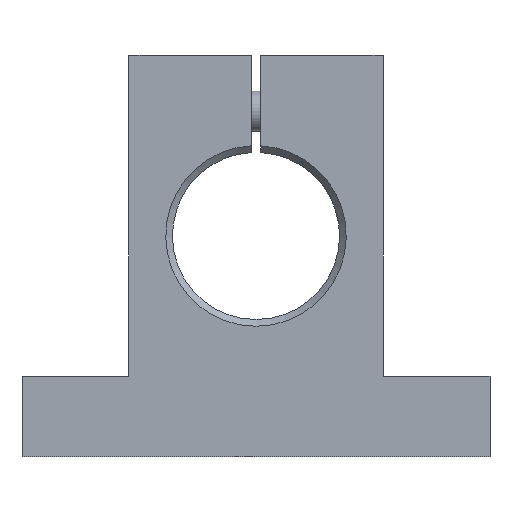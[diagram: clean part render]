
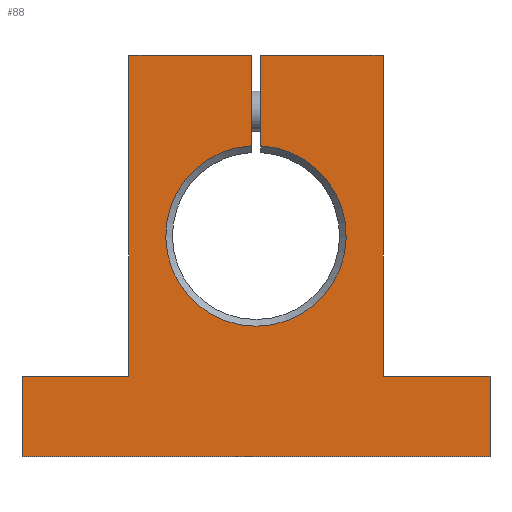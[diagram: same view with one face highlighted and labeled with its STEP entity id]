
A CAD part, front view. The second image highlights one B-rep face of the part: STEP entity #88.
In plain terms, the highlighted planar face has unit normal (0, -1, 0).
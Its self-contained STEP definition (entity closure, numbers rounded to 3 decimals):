
#88 = ADVANCED_FACE( '', ( #203 ), #204, .T. );
#203 = FACE_OUTER_BOUND( '', #347, .T. );
#204 = PLANE( '', #348 );
#347 = EDGE_LOOP( '', ( #537, #538, #539, #540, #541, #542, #543, #544, #545, #546, #547, #548 ) );
#348 = AXIS2_PLACEMENT_3D( '', #549, #550, #551 );
#537 = ORIENTED_EDGE( '', *, *, #800, .F. );
#538 = ORIENTED_EDGE( '', *, *, #801, .T. );
#539 = ORIENTED_EDGE( '', *, *, #802, .F. );
#540 = ORIENTED_EDGE( '', *, *, #803, .F. );
#541 = ORIENTED_EDGE( '', *, *, #804, .F. );
#542 = ORIENTED_EDGE( '', *, *, #805, .F. );
#543 = ORIENTED_EDGE( '', *, *, #806, .F. );
#544 = ORIENTED_EDGE( '', *, *, #763, .F. );
#545 = ORIENTED_EDGE( '', *, *, #807, .F. );
#546 = ORIENTED_EDGE( '', *, *, #756, .F. );
#547 = ORIENTED_EDGE( '', *, *, #808, .F. );
#548 = ORIENTED_EDGE( '', *, *, #809, .F. );
#549 = CARTESIAN_POINT( '', ( 0., -12., 2. ) );
#550 = DIRECTION( '', ( 0., -1., 0. ) );
#551 = DIRECTION( '', ( 1., 0., 0. ) );
#756 = EDGE_CURVE( '', #880, #881, #882, .T. );
#763 = EDGE_CURVE( '', #893, #894, #895, .T. );
#800 = EDGE_CURVE( '', #952, #953, #954, .T. );
#801 = EDGE_CURVE( '', #952, #955, #956, .F. );
#802 = EDGE_CURVE( '', #957, #955, #958, .T. );
#803 = EDGE_CURVE( '', #959, #957, #960, .T. );
#804 = EDGE_CURVE( '', #961, #959, #962, .T. );
#805 = EDGE_CURVE( '', #963, #961, #964, .T. );
#806 = EDGE_CURVE( '', #894, #963, #965, .T. );
#807 = EDGE_CURVE( '', #881, #893, #966, .T. );
#808 = EDGE_CURVE( '', #967, #880, #968, .T. );
#809 = EDGE_CURVE( '', #953, #967, #969, .T. );
#880 = VERTEX_POINT( '', #1062 );
#881 = VERTEX_POINT( '', #1063 );
#882 = LINE( '', #1064, #1065 );
#893 = VERTEX_POINT( '', #1079 );
#894 = VERTEX_POINT( '', #1080 );
#895 = LINE( '', #1081, #1082 );
#952 = VERTEX_POINT( '', #1156 );
#953 = VERTEX_POINT( '', #1157 );
#954 = LINE( '', #1158, #1159 );
#955 = VERTEX_POINT( '', #1160 );
#956 = CIRCLE( '', #1161, 13.5 );
#957 = VERTEX_POINT( '', #1162 );
#958 = LINE( '', #1163, #1164 );
#959 = VERTEX_POINT( '', #1165 );
#960 = LINE( '', #1166, #1167 );
#961 = VERTEX_POINT( '', #1168 );
#962 = LINE( '', #1169, #1170 );
#963 = VERTEX_POINT( '', #1171 );
#964 = LINE( '', #1172, #1173 );
#965 = LINE( '', #1174, #1175 );
#966 = LINE( '', #1176, #1177 );
#967 = VERTEX_POINT( '', #1178 );
#968 = LINE( '', #1179, #1180 );
#969 = LINE( '', #1181, #1182 );
#1062 = CARTESIAN_POINT( '', ( 19., -12., -21. ) );
#1063 = CARTESIAN_POINT( '', ( 35., -12., -21. ) );
#1064 = CARTESIAN_POINT( '', ( 35., -12., -21. ) );
#1065 = VECTOR( '', #1288, 1000. );
#1079 = CARTESIAN_POINT( '', ( 35., -12., -33. ) );
#1080 = CARTESIAN_POINT( '', ( -35., -12., -33. ) );
#1081 = CARTESIAN_POINT( '', ( -35., -12., -33. ) );
#1082 = VECTOR( '', #1298, 1000. );
#1156 = CARTESIAN_POINT( '', ( 0.7, -12., 13.482 ) );
#1157 = CARTESIAN_POINT( '', ( 0.7, -12., 27. ) );
#1158 = CARTESIAN_POINT( '', ( 0.7, -12., 27. ) );
#1159 = VECTOR( '', #1340, 1000. );
#1160 = CARTESIAN_POINT( '', ( -0.7, -12., 13.482 ) );
#1161 = AXIS2_PLACEMENT_3D( '', #1341, #1342, #1343 );
#1162 = CARTESIAN_POINT( '', ( -0.7, -12., 27. ) );
#1163 = CARTESIAN_POINT( '', ( -0.7, -12., 14.48 ) );
#1164 = VECTOR( '', #1344, 1000. );
#1165 = CARTESIAN_POINT( '', ( -19., -12., 27. ) );
#1166 = CARTESIAN_POINT( '', ( -0.7, -12., 27. ) );
#1167 = VECTOR( '', #1345, 1000. );
#1168 = CARTESIAN_POINT( '', ( -19., -12., -21. ) );
#1169 = CARTESIAN_POINT( '', ( -19., -12., 27. ) );
#1170 = VECTOR( '', #1346, 1000. );
#1171 = CARTESIAN_POINT( '', ( -35., -12., -21. ) );
#1172 = CARTESIAN_POINT( '', ( -19., -12., -21. ) );
#1173 = VECTOR( '', #1347, 1000. );
#1174 = CARTESIAN_POINT( '', ( -35., -12., -21. ) );
#1175 = VECTOR( '', #1348, 1000. );
#1176 = CARTESIAN_POINT( '', ( 35., -12., -33. ) );
#1177 = VECTOR( '', #1349, 1000. );
#1178 = CARTESIAN_POINT( '', ( 19., -12., 27. ) );
#1179 = CARTESIAN_POINT( '', ( 19., -12., -21. ) );
#1180 = VECTOR( '', #1350, 1000. );
#1181 = CARTESIAN_POINT( '', ( 19., -12., 27. ) );
#1182 = VECTOR( '', #1351, 1000. );
#1288 = DIRECTION( '', ( 1., 0., 0. ) );
#1298 = DIRECTION( '', ( -1., 0., 0. ) );
#1340 = DIRECTION( '', ( 0., 0., 1. ) );
#1341 = CARTESIAN_POINT( '', ( 0., -12., 0. ) );
#1342 = DIRECTION( '', ( 0., -1., 0. ) );
#1343 = DIRECTION( '', ( 0., 0., -1. ) );
#1344 = DIRECTION( '', ( 0., 0., -1. ) );
#1345 = DIRECTION( '', ( 1., 0., 0. ) );
#1346 = DIRECTION( '', ( 0., 0., 1. ) );
#1347 = DIRECTION( '', ( 1., 0., 0. ) );
#1348 = DIRECTION( '', ( 0., 0., 1. ) );
#1349 = DIRECTION( '', ( 0., 0., -1. ) );
#1350 = DIRECTION( '', ( 0., 0., -1. ) );
#1351 = DIRECTION( '', ( 1., 0., 0. ) );
